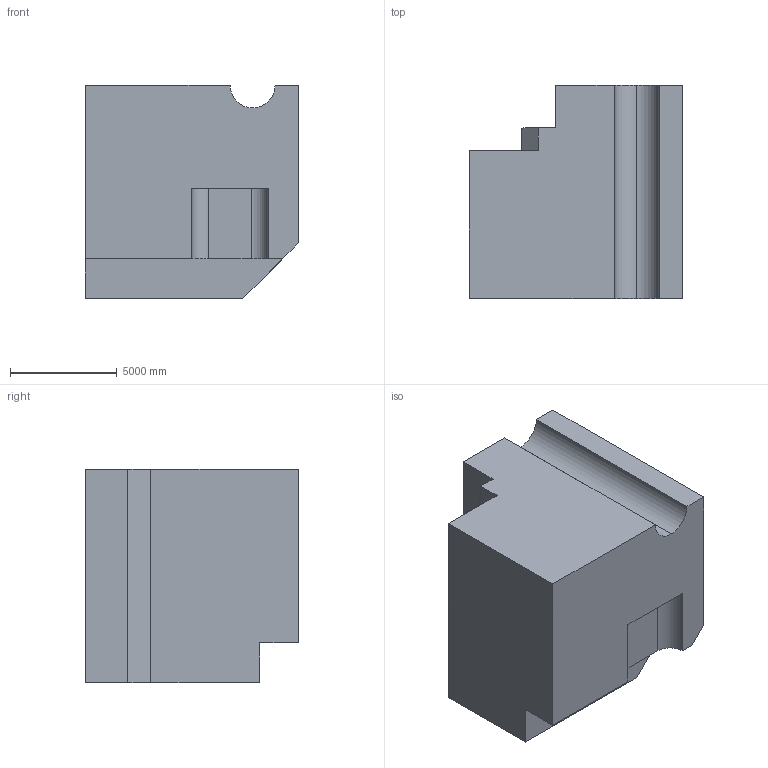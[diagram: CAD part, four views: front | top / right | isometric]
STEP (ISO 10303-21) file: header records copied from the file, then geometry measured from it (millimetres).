
FILE_DESCRIPTION (( 'STEP AP203' ), '1' );
FILE_NAME ('528.STEP', '2022-07-29T11:40:03', ( 'user' ), ( '' ), 'SwSTEP 2.0', 'SolidWorks 2021', '' );
FILE_SCHEMA (( 'CONFIG_CONTROL_DESIGN' ));
Length unit declared in the file: centimetre
Products named in the file (1): 528
Bounding box: 10000 x 10000 x 10000 mm (x, y, z)
Volume: 800620228163.2 mm3; surface area: 562444386.4 mm2
Topology: 1 solids, 1 shells, 20 faces, 54 edges, 36 vertices
Faces by surface type: plane 16, cylinder 4
Entity records: 703 total; most frequent: CARTESIAN_POINT 111, ORIENTED_EDGE 108, DIRECTION 104, EDGE_CURVE 54, LINE 46, VECTOR 46, VERTEX_POINT 36, AXIS2_PLACEMENT_3D 29
